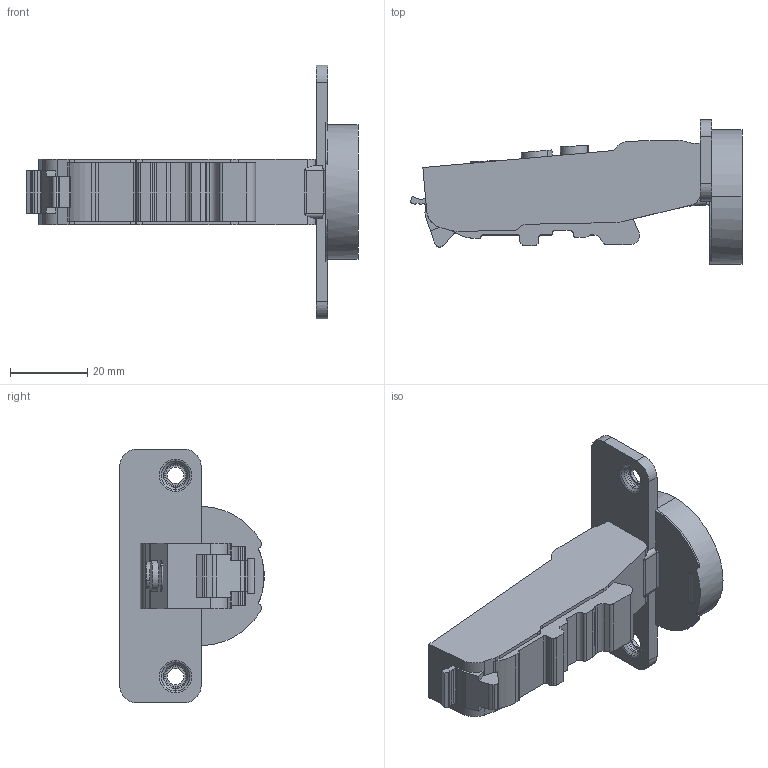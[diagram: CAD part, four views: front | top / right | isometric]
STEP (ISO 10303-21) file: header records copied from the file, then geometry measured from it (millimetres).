
FILE_DESCRIPTION (( 'STEP AP203' ), '1' );
FILE_NAME ('C81B8Q7FAB -DTC 3D close.STEP', '2024-11-29T08:53:57', ( '微软用户' ), ( '微软中国' ), 'SwSTEP 2.0', 'SolidWorks 2021', '' );
FILE_SCHEMA (( 'CONFIG_CONTROL_DESIGN' ));
Length unit declared in the file: millimetre
Products named in the file (1): C81B8Q7FAB -DTC 3D close
Bounding box: 85.76 x 37.3 x 65.6 mm (x, y, z)
Volume: 35750.2 mm3; surface area: 10875.8 mm2
Topology: 1 solids, 2 shells, 231 faces, 667 edges, 438 vertices
Faces by surface type: plane 135, cylinder 77, torus 12, cone 4, bspline 3
Entity records: 7760 total; most frequent: CARTESIAN_POINT 1485, ORIENTED_EDGE 1334, DIRECTION 1284, EDGE_CURVE 667, VECTOR 466, LINE 466, VERTEX_POINT 438, AXIS2_PLACEMENT_3D 409
